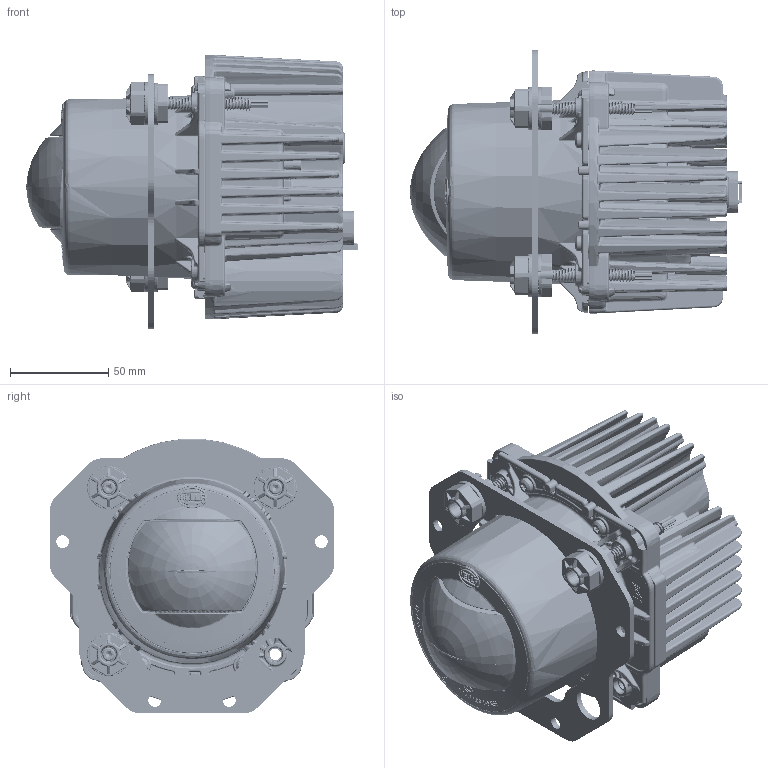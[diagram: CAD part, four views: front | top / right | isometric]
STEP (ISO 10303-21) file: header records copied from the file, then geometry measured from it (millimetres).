
FILE_DESCRIPTION(('CATIA V5 STEP Exchange','CAx-IF Rec.Pracs.--- Model Styling and Organization---1.5--- 2016-08-15','CAx-IF Rec.Pracs.---Supplemental Geometry---1.0---2011-11-01','CAx-IF Rec.Pracs.---Representation and Presentation of Product Manufacturing Information (PMI)---4.0---2014-10-13','CAx-IF Rec.Pracs.--- Composite Materials ---3.4---2017-06-13','CAx-IF Rec.Pracs.---Tessellated 3D Geometry---1.0---2015-12-17'),'2;1');
FILE_NAME('C:\Data\DDx\2025\19.05\015318-00-Carrier-Frame.stp','2025-05-19T11:13:09+00:00',('none'),('none'),'CATIA Version 5-6 Release 2022 SP3 HF41','CATIA V5 STEP AP242 v2','none');
FILE_SCHEMA(('AP242_MANAGED_MODEL_BASED_3D_ENGINEERING_MIM_LF {1 0 10303 442 3 1 4}'));
Length unit declared in the file: millimetre
Products named in the file (1): 10002700430_D10_001
Bounding box: 169.34 x 145 x 139.98 mm (x, y, z)
Volume: 1166878 mm3; surface area: 226871.8 mm2
Topology: 2 solids, 8 shells, 16302 faces, 39738 edges, 22819 vertices
Faces by surface type: bspline 7872, plane 2262, cylinder 1974, torus 1691, extrusion 980, cone 876, sphere 576, revolution 71
Entity records: 798766 total; most frequent: CARTESIAN_POINT 509879, ORIENTED_EDGE 77886, EDGE_CURVE 38943, DIRECTION 26273, B_SPLINE_CURVE_WITH_KNOTS 24904, VERTEX_POINT 22819, EDGE_LOOP 16548, ADVANCED_FACE 16299
